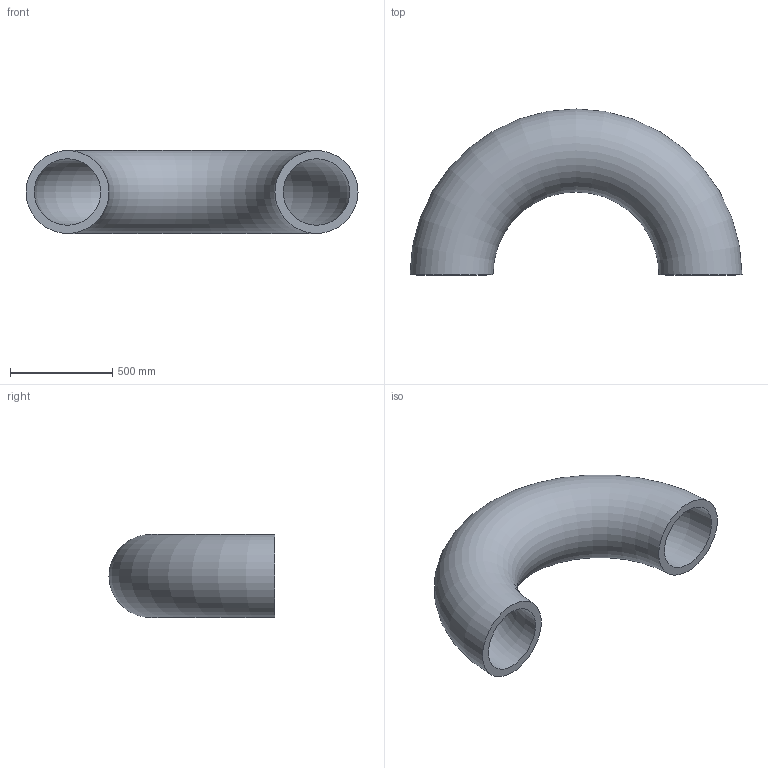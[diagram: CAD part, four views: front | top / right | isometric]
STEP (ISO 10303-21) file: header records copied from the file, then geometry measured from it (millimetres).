
FILE_DESCRIPTION(/* description */ (''),/* implementation_level */ '2;1');
FILE_NAME(/* name */ 'C:\Users\D\Documents\Inventor\HP\JIS\配管\エルボ ロング 180°\Sch160\Elbow180-long-400A-Sch160.stp',/* time_stamp */ '2022-06-14T14:57:26+09:00',/* author */ ('D'),/* organization */ (''),/* preprocessor_version */ 'ST-DEVELOPER v18',/* originating_system */ 'Autodesk Inventor 2020',/* authorisation */ '');
FILE_SCHEMA (('AUTOMOTIVE_DESIGN { 1 0 10303 214 3 1 1 }'));
Length unit declared in the file: millimetre
Products named in the file (1): Elbow-long-90-15A-SGP
Bounding box: 1625.6 x 812.8 x 406.4 mm (x, y, z)
Volume: 89158373.4 mm3; surface area: 4495992.8 mm2
Topology: 1 solids, 1 shells, 4 faces, 10 edges, 8 vertices
Faces by surface type: torus 2, plane 2
Entity records: 181 total; most frequent: DIRECTION 30, CARTESIAN_POINT 23, ORIENTED_EDGE 20, AXIS2_PLACEMENT_3D 15, CIRCLE 10, EDGE_CURVE 10, VERTEX_POINT 8, EDGE_LOOP 6
